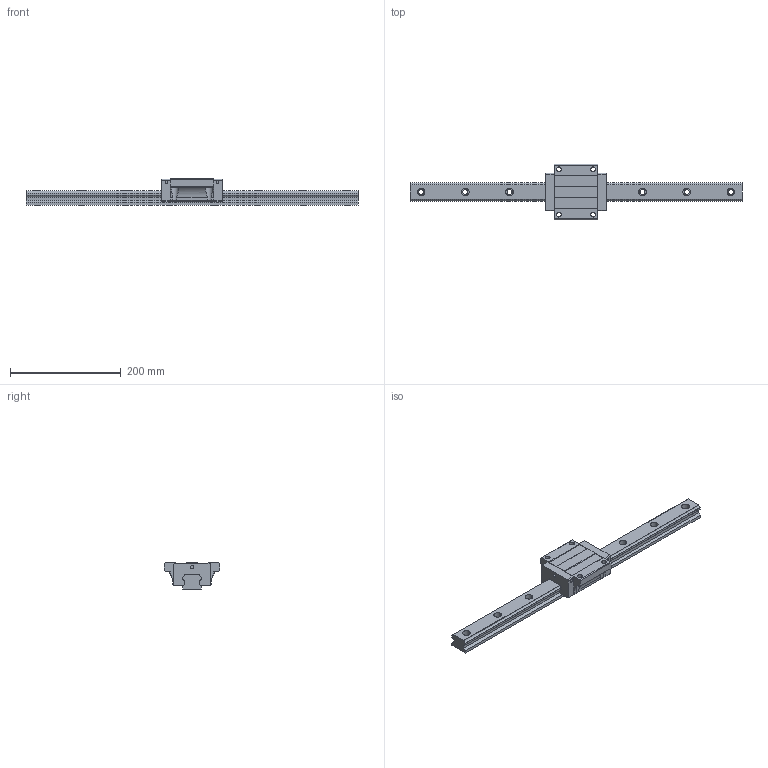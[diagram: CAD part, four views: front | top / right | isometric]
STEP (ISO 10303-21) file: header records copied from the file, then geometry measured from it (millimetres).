
FILE_DESCRIPTION (( 'STEP AP203' ), '1' );
FILE_NAME ('TRH35FN-XN.STEP', '2024-05-09T08:06:32', ( '' ), ( '' ), 'SwSTEP 2.0', 'SolidWorks 2022', '' );
FILE_SCHEMA (( 'CONFIG_CONTROL_DESIGN' ));
Length unit declared in the file: millimetre
Products named in the file (1): TRH35FN-XN
Bounding box: 600 x 100 x 48 mm (x, y, z)
Volume: 717443 mm3; surface area: 122768.8 mm2
Topology: 2 solids, 2 shells, 212 faces, 580 edges, 386 vertices
Faces by surface type: cylinder 112, plane 100
Entity records: 7521 total; most frequent: CARTESIAN_POINT 1873, DIRECTION 1174, ORIENTED_EDGE 1160, EDGE_CURVE 580, AXIS2_PLACEMENT_3D 409, VERTEX_POINT 386, VECTOR 356, LINE 356
